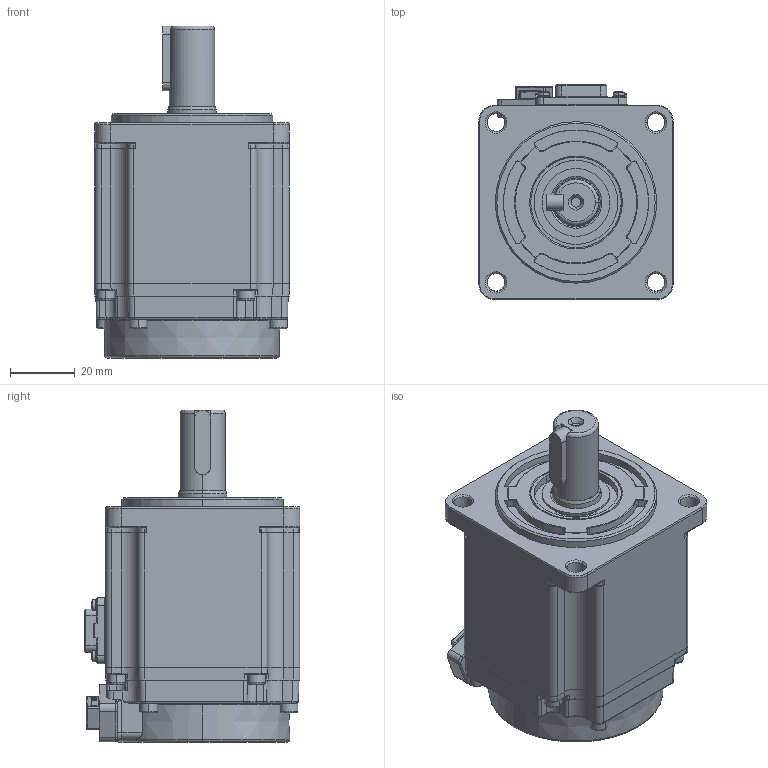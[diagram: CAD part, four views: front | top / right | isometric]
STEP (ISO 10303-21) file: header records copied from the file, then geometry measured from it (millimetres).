
FILE_DESCRIPTION (( 'STEP AP203' ), '1' );
FILE_NAME ('G3系列60ST-200W电机三维图-三竹插拔头.STEP', '2023-09-27T05:25:39', ( '微软用户' ), ( '微软中国' ), 'SwSTEP 2.0', 'SolidWorks 2016', '' );
FILE_SCHEMA (( 'CONFIG_CONTROL_DESIGN' ));
Products named in the file (1): G3系列60ST-200W电机三维图-三竹插拔头
Bounding box: 60.2 x 66.8 x 102.8 mm (x, y, z)
Surface area: 66141 mm2 (no closed solid volume)
Topology: 0 solids, 20 shells, 3451 faces, 8903 edges, 5633 vertices
Faces by surface type: plane 1838, cylinder 712, bspline 413, cone 382, torus 98, sphere 8
Entity records: 115409 total; most frequent: CARTESIAN_POINT 33354, ORIENTED_EDGE 17736, DIRECTION 16171, EDGE_CURVE 8882, VERTEX_POINT 5633, LINE 5505, VECTOR 5505, AXIS2_PLACEMENT_3D 5333
